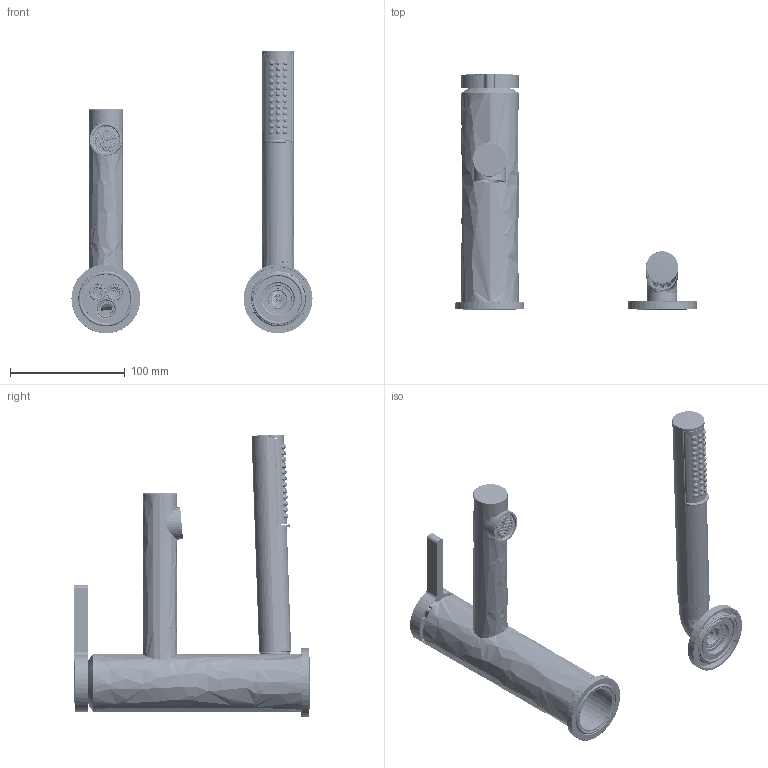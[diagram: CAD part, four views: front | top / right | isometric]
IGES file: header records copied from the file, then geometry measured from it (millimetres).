
Start section: SolidWorks IGES file using analytic representation for surfaces
Global section: file name: C:\Users\ccai\Desktop\CeliaC\Projects\0920-ADHOC-02495&02496 Neutral File#3\sku_co02nseries_igs\CO02NSERIES.IGS; native system: SolidWorks 2023; preprocessor: SolidWorks 2023; author: ccai; date: 240918.161003; units: millimetre
Bounding box: 210 x 205.33 x 246.17 mm (x, y, z)
Surface area: 242845.1 mm2 (no closed solid volume)
Topology: 0 solids, 0 shells, 10574 faces, 101793 edges, 101981 vertices
Faces by surface type: bspline 7510, revolution 3064
